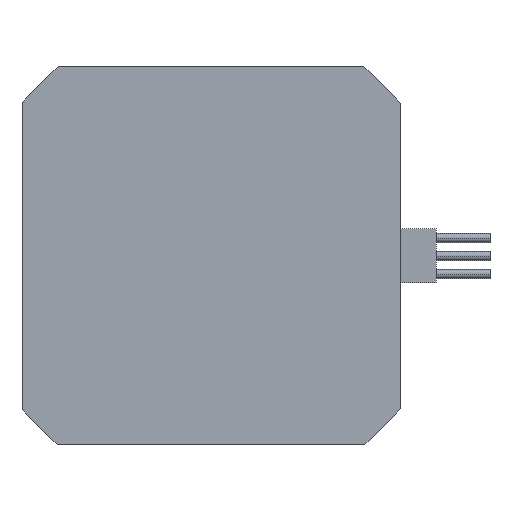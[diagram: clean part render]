
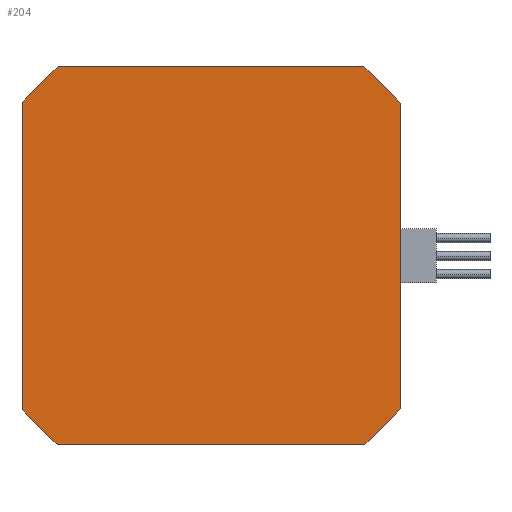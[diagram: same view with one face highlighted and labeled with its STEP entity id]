
A CAD part, left-side view. The second image highlights one B-rep face of the part: STEP entity #204.
In plain terms, the highlighted planar face has unit normal (-1, 0, 0).
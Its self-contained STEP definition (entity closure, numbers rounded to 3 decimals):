
#204 = ADVANCED_FACE( '', ( #473 ), #474, .F. );
#473 = FACE_OUTER_BOUND( '', #748, .T. );
#474 = PLANE( '', #749 );
#748 = EDGE_LOOP( '', ( #1774, #1775, #1776, #1777, #1778, #1779, #1780, #1781 ) );
#749 = AXIS2_PLACEMENT_3D( '', #1782, #1783, #1784 );
#1774 = ORIENTED_EDGE( '', *, *, #2106, .F. );
#1775 = ORIENTED_EDGE( '', *, *, #2028, .F. );
#1776 = ORIENTED_EDGE( '', *, *, #2111, .F. );
#1777 = ORIENTED_EDGE( '', *, *, #2112, .F. );
#1778 = ORIENTED_EDGE( '', *, *, #2107, .F. );
#1779 = ORIENTED_EDGE( '', *, *, #2088, .F. );
#1780 = ORIENTED_EDGE( '', *, *, #2105, .F. );
#1781 = ORIENTED_EDGE( '', *, *, #1917, .F. );
#1782 = CARTESIAN_POINT( '', ( -33., 0., 0. ) );
#1783 = DIRECTION( '', ( 1., 0., 0. ) );
#1784 = DIRECTION( '', ( 0., 0., -1. ) );
#1917 = EDGE_CURVE( '', #2319, #2321, #2322, .T. );
#2028 = EDGE_CURVE( '', #2515, #2517, #2518, .T. );
#2088 = EDGE_CURVE( '', #2610, #2612, #2613, .T. );
#2105 = EDGE_CURVE( '', #2321, #2610, #2635, .T. );
#2106 = EDGE_CURVE( '', #2517, #2319, #2636, .T. );
#2107 = EDGE_CURVE( '', #2612, #2637, #2638, .T. );
#2111 = EDGE_CURVE( '', #2641, #2515, #2643, .T. );
#2112 = EDGE_CURVE( '', #2637, #2641, #2644, .T. );
#2319 = VERTEX_POINT( '', #2914 );
#2321 = VERTEX_POINT( '', #2917 );
#2322 = LINE( '', #2918, #2919 );
#2515 = VERTEX_POINT( '', #3194 );
#2517 = VERTEX_POINT( '', #3197 );
#2518 = LINE( '', #3198, #3199 );
#2610 = VERTEX_POINT( '', #3341 );
#2612 = VERTEX_POINT( '', #3344 );
#2613 = LINE( '', #3345, #3346 );
#2635 = CIRCLE( '', #3380, 27. );
#2636 = CIRCLE( '', #3381, 27. );
#2637 = VERTEX_POINT( '', #3382 );
#2638 = CIRCLE( '', #3383, 27. );
#2641 = VERTEX_POINT( '', #3388 );
#2643 = CIRCLE( '', #3391, 27. );
#2644 = LINE( '', #3392, #3393 );
#2914 = CARTESIAN_POINT( '', ( -33., -21., 16.971 ) );
#2917 = CARTESIAN_POINT( '', ( -33., -21., -16.971 ) );
#2918 = CARTESIAN_POINT( '', ( -33., -21., 16.971 ) );
#2919 = VECTOR( '', #3661, 1. );
#3194 = CARTESIAN_POINT( '', ( -33., 16.971, 21. ) );
#3197 = CARTESIAN_POINT( '', ( -33., -16.971, 21. ) );
#3198 = CARTESIAN_POINT( '', ( -33., 16.971, 21. ) );
#3199 = VECTOR( '', #3826, 1. );
#3341 = CARTESIAN_POINT( '', ( -33., -16.971, -21. ) );
#3344 = CARTESIAN_POINT( '', ( -33., 16.971, -21. ) );
#3345 = CARTESIAN_POINT( '', ( -33., -16.971, -21. ) );
#3346 = VECTOR( '', #3902, 1. );
#3380 = AXIS2_PLACEMENT_3D( '', #3927, #3928, #3929 );
#3381 = AXIS2_PLACEMENT_3D( '', #3930, #3931, #3932 );
#3382 = CARTESIAN_POINT( '', ( -33., 21., -16.971 ) );
#3383 = AXIS2_PLACEMENT_3D( '', #3933, #3934, #3935 );
#3388 = CARTESIAN_POINT( '', ( -33., 21., 16.971 ) );
#3391 = AXIS2_PLACEMENT_3D( '', #3939, #3940, #3941 );
#3392 = CARTESIAN_POINT( '', ( -33., 21., -16.971 ) );
#3393 = VECTOR( '', #3942, 1. );
#3661 = DIRECTION( '', ( 0., 0., -1. ) );
#3826 = DIRECTION( '', ( 0., -1., 0. ) );
#3902 = DIRECTION( '', ( 0., 1., 0. ) );
#3927 = CARTESIAN_POINT( '', ( -33., 0., 0. ) );
#3928 = DIRECTION( '', ( 1., 0., 0. ) );
#3929 = DIRECTION( '', ( 0., -0.778, -0.629 ) );
#3930 = CARTESIAN_POINT( '', ( -33., 0., 0. ) );
#3931 = DIRECTION( '', ( 1., 0., 0. ) );
#3932 = DIRECTION( '', ( 0., -0.629, 0.778 ) );
#3933 = CARTESIAN_POINT( '', ( -33., 0., 0. ) );
#3934 = DIRECTION( '', ( 1., 0., 0. ) );
#3935 = DIRECTION( '', ( 0., 0.629, -0.778 ) );
#3939 = CARTESIAN_POINT( '', ( -33., 0., 0. ) );
#3940 = DIRECTION( '', ( 1., 0., 0. ) );
#3941 = DIRECTION( '', ( 0., 0.778, 0.629 ) );
#3942 = DIRECTION( '', ( 0., 0., 1. ) );
